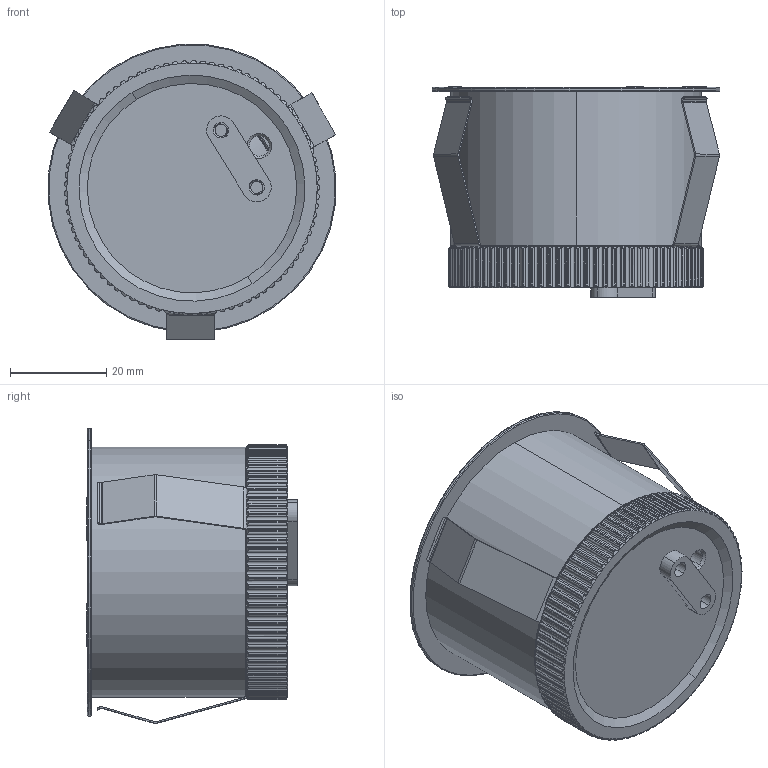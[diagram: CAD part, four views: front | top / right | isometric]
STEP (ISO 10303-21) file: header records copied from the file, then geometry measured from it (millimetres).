
FILE_DESCRIPTION (( 'STEP AP214' ), '1' );
FILE_NAME ('102015-55.STEP', '2026-08-28T08:05:34', ( '' ), ( '' ), 'SwSTEP 2.0', 'SolidWorks 2023', '' );
FILE_SCHEMA (( 'AUTOMOTIVE_DESIGN' ));
Length unit declared in the file: millimetre
Products named in the file (1): 102015-55
Bounding box: 59.82 x 43.79 x 61.42 mm (x, y, z)
Volume: 51884.2 mm3; surface area: 39560.4 mm2
Topology: 8 solids, 8 shells, 1141 faces, 3097 edges, 1971 vertices
Faces by surface type: cylinder 580, cone 253, plane 186, bspline 95, torus 27
Entity records: 49380 total; most frequent: CARTESIAN_POINT 23655, ORIENTED_EDGE 6160, DIRECTION 4329, EDGE_CURVE 3080, VERTEX_POINT 1971, AXIS2_PLACEMENT_3D 1742, B_SPLINE_CURVE_WITH_KNOTS 1383, EDGE_LOOP 1183
